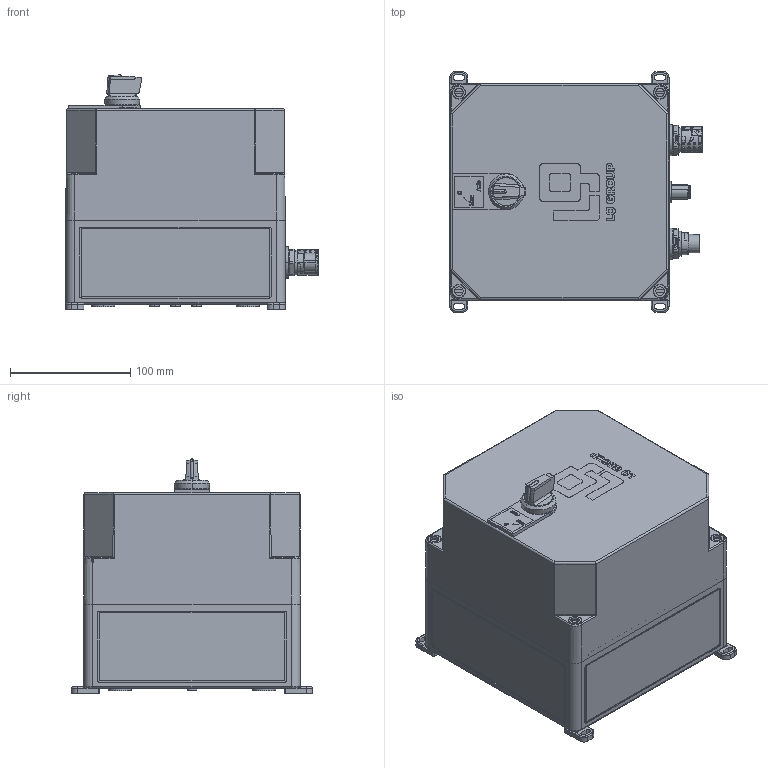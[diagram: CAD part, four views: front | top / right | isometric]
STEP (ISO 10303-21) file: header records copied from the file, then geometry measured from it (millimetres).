
FILE_DESCRIPTION (( 'STEP AP214' ), '1' );
FILE_NAME ('vereinfacht_1165775.STEP', '2020-02-25T16:35:00', ( '' ), ( '' ), 'SwSTEP 2.0', 'SolidWorks 2019', '' );
FILE_SCHEMA (( 'AUTOMOTIVE_DESIGN' ));
Length unit declared in the file: millimetre
Products named in the file (1): vereinfacht_1165775
Bounding box: 209.43 x 200 x 194.55 mm (x, y, z)
Surface area: 401459.6 mm2 (no closed solid volume)
Topology: 0 solids, 24 shells, 2707 faces, 7615 edges, 5038 vertices
Faces by surface type: plane 1360, cylinder 708, bspline 428, cone 118, torus 87, sphere 6
Entity records: 140559 total; most frequent: CARTESIAN_POINT 44152, ORIENTED_EDGE 14413, DIRECTION 12510, EDGE_CURVE 7589, VERTEX_POINT 5032, AXIS2_PLACEMENT_3D 4247, VECTOR 4016, LINE 4016
